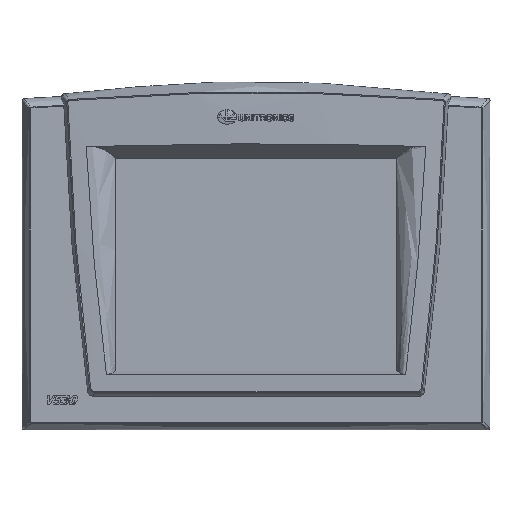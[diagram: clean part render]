
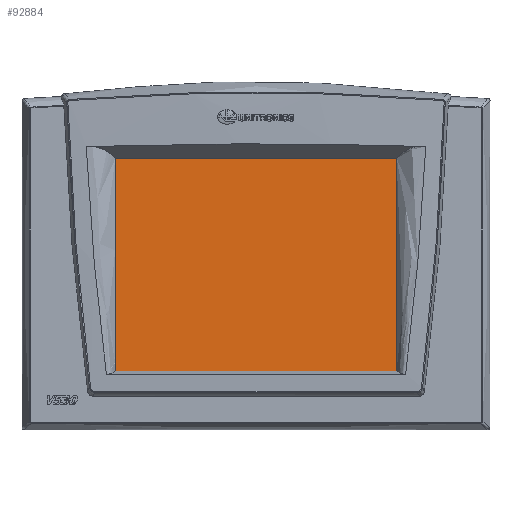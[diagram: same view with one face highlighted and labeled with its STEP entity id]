
A CAD part, top view. The second image highlights one B-rep face of the part: STEP entity #92884.
In plain terms, the highlighted planar face has unit normal (0, 0, 1).
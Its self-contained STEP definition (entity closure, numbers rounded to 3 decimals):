
#3413 = CARTESIAN_POINT ( 'NONE',  ( 17.169, -31.446, 39.45 ) ) ;
#3415 = DIRECTION ( 'NONE',  ( 0., -1., 0. ) ) ;
#3433 = CARTESIAN_POINT ( 'NONE',  ( -101.131, -31.446, 39.45 ) ) ;
#3435 = DIRECTION ( 'NONE',  ( 0., 1., 0. ) ) ;
#3448 = CARTESIAN_POINT ( 'NONE',  ( -101.131, 58.054, 39.45 ) ) ;
#3450 = DIRECTION ( 'NONE',  ( 1., 0., 0. ) ) ;
#5961 = VECTOR ( 'NONE', #3415, 1000. ) ;
#5975 = VECTOR ( 'NONE', #3435, 1000. ) ;
#5986 = VECTOR ( 'NONE', #3450, 1000. ) ;
#10844 = LINE ( 'NONE', #99626, #14391 ) ;
#14391 = VECTOR ( 'NONE', #99627, 1000. ) ;
#19944 = EDGE_LOOP ( 'NONE', ( #98332, #98333, #98334, #98330, #98336 ) ) ;
#67479 = B_SPLINE_CURVE_WITH_KNOTS ( 'NONE', 3,
 ( #99882, #99883, #99884, #99885 ),
 .UNSPECIFIED., .F., .F.,
 ( 4, 4 ),
 ( 0., 0.004 ),
 .UNSPECIFIED. ) ;
#88507 = VERTEX_POINT ( 'NONE', #139392 ) ;
#88513 = VERTEX_POINT ( 'NONE', #139395 ) ;
#92884 = ADVANCED_FACE ( 'NONE', ( #137714 ), #148585, .F. ) ;
#93950 = EDGE_CURVE ( 'NONE', #88507, #117457, #150882, .T. ) ;
#93954 = EDGE_CURVE ( 'NONE', #117586, #88513, #150886, .T. ) ;
#93957 = EDGE_CURVE ( 'NONE', #88513, #88507, #150889, .T. ) ;
#98330 = ORIENTED_EDGE ( 'NONE', *, *, #93957, .F. ) ;
#98332 = ORIENTED_EDGE ( 'NONE', *, *, #110760, .T. ) ;
#98333 = ORIENTED_EDGE ( 'NONE', *, *, #110747, .T. ) ;
#98334 = ORIENTED_EDGE ( 'NONE', *, *, #93950, .F. ) ;
#98336 = ORIENTED_EDGE ( 'NONE', *, *, #93954, .F. ) ;
#99626 = CARTESIAN_POINT ( 'NONE',  ( -106.88, -31.368, 39.45 ) ) ;
#99627 = DIRECTION ( 'NONE',  ( 1., 0., 0. ) ) ;
#99882 = CARTESIAN_POINT ( 'NONE',  ( -101.131, -27.703, 39.45 ) ) ;
#99883 = CARTESIAN_POINT ( 'NONE',  ( -101.125, -28.925, 39.45 ) ) ;
#99884 = CARTESIAN_POINT ( 'NONE',  ( -101.119, -30.146, 39.45 ) ) ;
#99885 = CARTESIAN_POINT ( 'NONE',  ( -101.112, -31.368, 39.45 ) ) ;
#110747 = EDGE_CURVE ( 'NONE', #117453, #117457, #10844, .T. ) ;
#110760 = EDGE_CURVE ( 'NONE', #117586, #117453, #67479, .T. ) ;
#114951 = CARTESIAN_POINT ( 'NONE',  ( -101.112, -31.368, 39.45 ) ) ;
#114952 = CARTESIAN_POINT ( 'NONE',  ( 17.169, -31.368, 39.45 ) ) ;
#114992 = CARTESIAN_POINT ( 'NONE',  ( -101.131, -27.703, 39.45 ) ) ;
#117453 = VERTEX_POINT ( 'NONE', #114951 ) ;
#117457 = VERTEX_POINT ( 'NONE', #114952 ) ;
#117586 = VERTEX_POINT ( 'NONE', #114992 ) ;
#137714 = FACE_OUTER_BOUND ( 'NONE', #19944, .T. ) ;
#139392 = CARTESIAN_POINT ( 'NONE',  ( 17.169, 58.054, 39.45 ) ) ;
#139395 = CARTESIAN_POINT ( 'NONE',  ( -101.131, 58.054, 39.45 ) ) ;
#142550 = AXIS2_PLACEMENT_3D ( 'NONE', #148586, #148588, #148589 ) ;
#148585 = PLANE ( 'NONE',  #142550 ) ;
#148586 = CARTESIAN_POINT ( 'NONE',  ( 17.169, 58.054, 39.45 ) ) ;
#148588 = DIRECTION ( 'NONE',  ( 0., 0., -1. ) ) ;
#148589 = DIRECTION ( 'NONE',  ( 1., 0., 0. ) ) ;
#150882 = LINE ( 'NONE', #3413, #5961 ) ;
#150886 = LINE ( 'NONE', #3433, #5975 ) ;
#150889 = LINE ( 'NONE', #3448, #5986 ) ;
